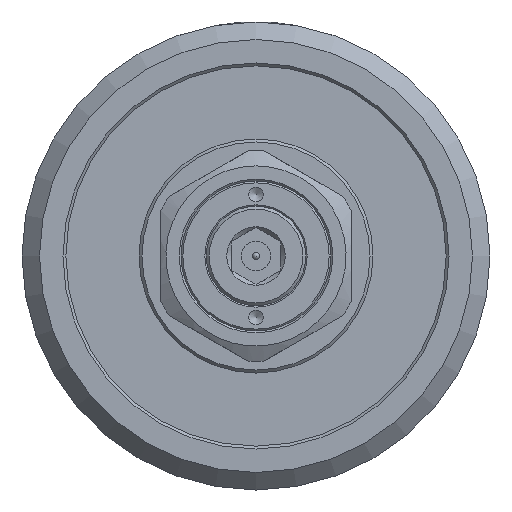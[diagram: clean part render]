
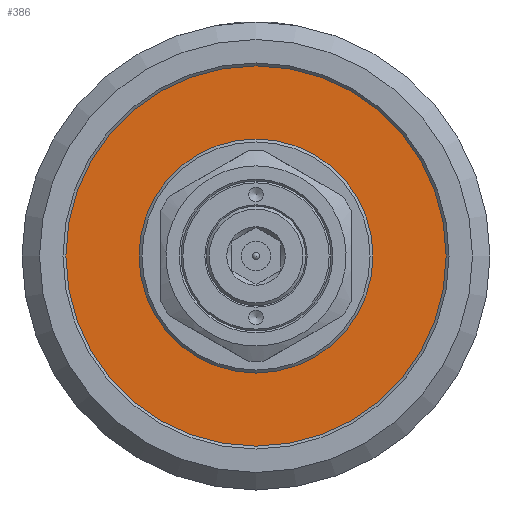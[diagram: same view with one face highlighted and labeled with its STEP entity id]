
A CAD part, left-side view. The second image highlights one B-rep face of the part: STEP entity #386.
In plain terms, the highlighted planar face has unit normal (-1, 0, 0).
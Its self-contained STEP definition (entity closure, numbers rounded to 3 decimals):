
#386 = ADVANCED_FACE( '', ( #939, #940 ), #941, .F. );
#939 = FACE_OUTER_BOUND( '', #1717, .T. );
#940 = FACE_BOUND( '', #1718, .T. );
#941 = PLANE( '', #1719 );
#1717 = EDGE_LOOP( '', ( #2779 ) );
#1718 = EDGE_LOOP( '', ( #2780 ) );
#1719 = AXIS2_PLACEMENT_3D( '', #2781, #2782, #2783 );
#2779 = ORIENTED_EDGE( '', *, *, #3984, .T. );
#2780 = ORIENTED_EDGE( '', *, *, #3985, .F. );
#2781 = CARTESIAN_POINT( '', ( 100., 0., 65. ) );
#2782 = DIRECTION( '', ( 1., 0., 0. ) );
#2783 = DIRECTION( '', ( 0., 1., 0. ) );
#3984 = EDGE_CURVE( '', #4694, #4694, #4695, .T. );
#3985 = EDGE_CURVE( '', #4696, #4696, #4697, .T. );
#4694 = VERTEX_POINT( '', #6103 );
#4695 = CIRCLE( '', #6104, 65. );
#4696 = VERTEX_POINT( '', #6105 );
#4697 = CIRCLE( '', #6106, 40. );
#6103 = CARTESIAN_POINT( '', ( 100., 0., 65. ) );
#6104 = AXIS2_PLACEMENT_3D( '', #7041, #7042, #7043 );
#6105 = CARTESIAN_POINT( '', ( 100., 0., 40. ) );
#6106 = AXIS2_PLACEMENT_3D( '', #7044, #7045, #7046 );
#7041 = CARTESIAN_POINT( '', ( 100., 0., 0. ) );
#7042 = DIRECTION( '', ( -1., 0., 0. ) );
#7043 = DIRECTION( '', ( 0., 0., 1. ) );
#7044 = CARTESIAN_POINT( '', ( 100., 0., 0. ) );
#7045 = DIRECTION( '', ( -1., 0., 0. ) );
#7046 = DIRECTION( '', ( 0., 0., 1. ) );
